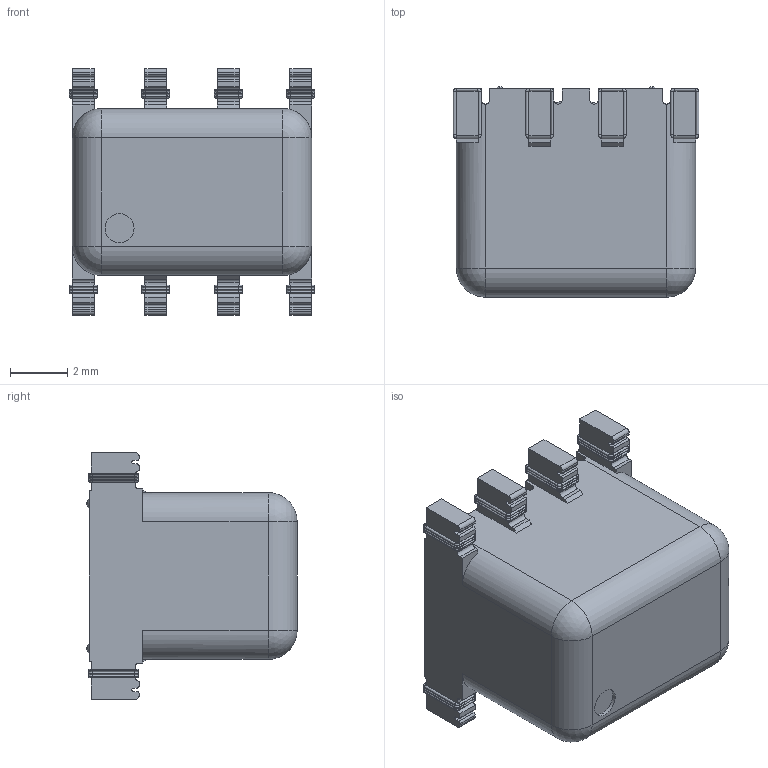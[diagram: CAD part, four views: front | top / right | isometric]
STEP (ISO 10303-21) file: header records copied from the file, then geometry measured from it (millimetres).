
FILE_DESCRIPTION (( 'STEP AP214' ), '1' );
FILE_NAME ('PA2742NL.STEP', '2021-03-26T05:54:34', ( '' ), ( '' ), 'SwSTEP 2.0', 'SolidWorks 2015', '' );
FILE_SCHEMA (( 'AUTOMOTIVE_DESIGN' ));
Length unit declared in the file: inch
Products named in the file (4): WIRE 38; 031-0514.001; 043-1357.001; PA2742NL
Assembly tree (26 placements, depth 2):
  PA2742NL
    043-1357.001
    031-0514.001
    WIRE 38  x24
Bounding box: 8.61 x 7.37 x 8.64 mm (x, y, z)
Volume: 208.3 mm3; surface area: 636.7 mm2
Topology: 26 solids, 26 shells, 623 faces, 1426 edges, 808 vertices
Faces by surface type: cylinder 282, torus 204, plane 125, sphere 12
Entity records: 8444 total; most frequent: CARTESIAN_POINT 1520, DIRECTION 1486, ORIENTED_EDGE 1372, EDGE_CURVE 686, AXIS2_PLACEMENT_3D 524, VERTEX_POINT 440, VECTOR 438, LINE 438
